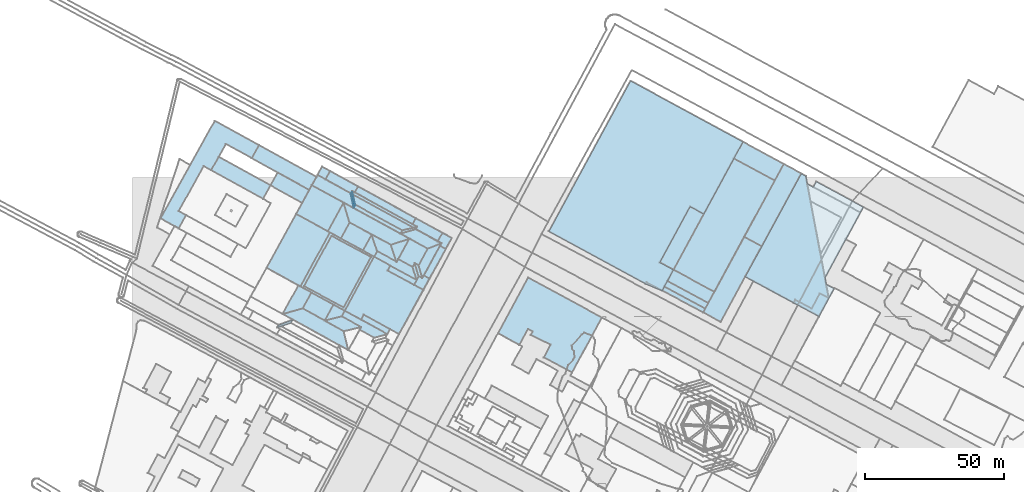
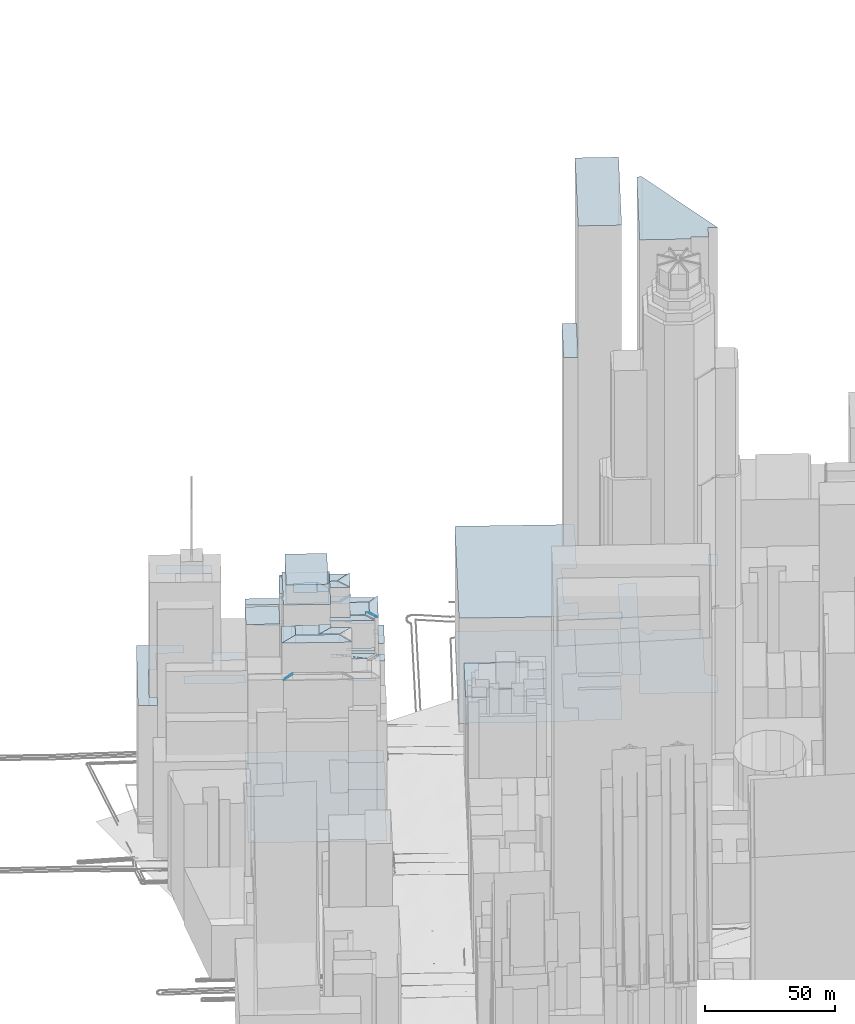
# Not in any storey, part 41 of 76: 55 roofs.
"""IFC2X3 model written with IfcOpenShell, lengths in metres."""

import ifcopenshell
import ifcopenshell.guid

model = None  # the IFC model being written
_history = None  # IfcOwnerHistory: only IFC2X3 demands one
_inside = {}  # id of a spatial element -> (the spatial element, [elements in it])
_under = {}  # id of a project, library or spatial element -> (it, [spatial elements below it])
_declared = {}  # id of a project -> (the project, [libraries it declares])
_typed = {}  # id of a type object -> (the type object, [elements of that type])
_made_of = {}  # id of a material, layer set ... -> (it, [elements and type objects made of it])


def new_model(schema):
    """Start an empty IFC model of exactly this schema.

    Asked for "IFC4X3", IfcOpenShell would pick the latest addendum, in which some entities
    have other attributes; the version numbers below select the first issue.
    IFC2X3 requires an IfcOwnerHistory on every rooted entity: one is made here for all.
    """
    global model, _history
    if schema == "IFC4X3":
        model = ifcopenshell.file(schema_version=(4, 3, 0, 0))
    else:
        model = ifcopenshell.file(schema=schema)
    _inside.clear()
    _under.clear()
    _declared.clear()
    _typed.clear()
    _made_of.clear()
    _history = None
    if model.schema == "IFC2X3":
        org = make("IfcOrganization", Name="unknown")
        user = make(
            "IfcPersonAndOrganization",
            ThePerson=make("IfcPerson", FamilyName="unknown"),
            TheOrganization=org,
        )
        app = make(
            "IfcApplication",
            ApplicationDeveloper=org,
            Version="unknown",
            ApplicationFullName="unknown",
            ApplicationIdentifier="unknown",
        )
        _history = make(
            "IfcOwnerHistory",
            OwningUser=user,
            OwningApplication=app,
            ChangeAction="ADDED",
            CreationDate=0,
        )
    return model


def make(cls, **values):
    """One entity of the class cls with the attributes given. An attribute that is None is left unset."""
    return model.create_entity(
        cls, **{name: value for name, value in values.items() if value is not None}
    )


def rooted(cls, **values):
    """An entity with a GlobalId (a new one), such as an element, a storey or a relation."""
    return make(cls, GlobalId=ifcopenshell.guid.new(), OwnerHistory=_history, **values)


def si_unit(unit_type, name, prefix=None):
    """IfcSIUnit, for example si_unit("LENGTHUNIT", "METRE", prefix="MILLI")."""
    return make("IfcSIUnit", UnitType=unit_type, Prefix=prefix, Name=name)


def assignment(units):
    """IfcUnitAssignment: the units of a project."""
    return None if units is None else make("IfcUnitAssignment", Units=units)


def point(xyz):
    """IfcCartesianPoint."""
    return None if xyz is None else make("IfcCartesianPoint", Coordinates=xyz)


def direction(xyz):
    """IfcDirection."""
    return None if xyz is None else make("IfcDirection", DirectionRatios=xyz)


def frame(location, z_axis=None, x_axis=None):
    """IfcAxis2Placement3D, a coordinate frame: its origin and axes. An axis left out is left unset."""
    return make(
        "IfcAxis2Placement3D",
        Location=point(location),
        Axis=direction(z_axis),
        RefDirection=direction(x_axis),
    )


def origin_with_axes():
    """The frame at (0, 0, 0) with the z axis (0, 0, 1) and the x axis (1, 0, 0) written out."""
    return frame((0.0, 0.0, 0.0), z_axis=(0.0, 0.0, 1.0), x_axis=(1.0, 0.0, 0.0))


def place(relative_to, where):
    """IfcLocalPlacement: puts the frame where relative to a parent placement (None: the world)."""
    return make(
        "IfcLocalPlacement", PlacementRelTo=relative_to, RelativePlacement=where
    )


def context(
    kind, dimensions, precision=None, world=None, true_north=None, identifier=None
):
    """IfcGeometricRepresentationContext, for example the 3D "Model" context."""
    return make(
        "IfcGeometricRepresentationContext",
        ContextIdentifier=identifier,
        ContextType=kind,
        CoordinateSpaceDimension=dimensions,
        Precision=precision,
        WorldCoordinateSystem=world,
        TrueNorth=true_north,
    )


def subcontext(parent, identifier, kind, view, scale=None):
    """IfcGeometricRepresentationSubContext, for example "Body" below "Model"."""
    return make(
        "IfcGeometricRepresentationSubContext",
        ContextIdentifier=identifier,
        ContextType=kind,
        ParentContext=parent,
        TargetScale=scale,
        TargetView=view,
    )


def project(units=None, contexts=None):
    """IfcProject with its units and contexts."""
    return rooted(
        "IfcProject",
        Name="project",
        RepresentationContexts=contexts,
        UnitsInContext=assignment(units),
    )


def faces_of(points, faces, orient=None, outer=None):
    """IfcFace entities. A face is a list of loops; a loop is a list of indices into points, from 0.

    orient and outer hold one flag for each loop. By default every Orientation is true, the
    first loop of a face is its IfcFaceOuterBound and the others are IfcFaceBound.
    """
    made = []
    for i, loops in enumerate(faces):
        bounds = []
        for j, loop in enumerate(loops):
            is_outer = j == 0 if outer is None else outer[i][j]
            bounds.append(
                make(
                    "IfcFaceOuterBound" if is_outer else "IfcFaceBound",
                    Bound=make("IfcPolyLoop", Polygon=[points[k] for k in loop]),
                    Orientation=True if orient is None else orient[i][j],
                )
            )
        made.append(make("IfcFace", Bounds=bounds))
    return made


def faceted_brep(points, faces, orient=None, outer=None, voids=None):
    """IfcFacetedBrep: a solid bounded by flat faces; with voids (closed shells), ...WithVoids."""
    shared = [point(p) for p in points]
    hull = make("IfcClosedShell", CfsFaces=faces_of(shared, faces, orient, outer))
    if voids is None:
        return make("IfcFacetedBrep", Outer=hull)
    return make(
        "IfcFacetedBrepWithVoids",
        Outer=hull,
        Voids=[
            make(cls, CfsFaces=faces_of(shared, fs, o, b)) for cls, fs, o, b in voids
        ],
    )


def shape(context_of_items, identifier, shape_type, items):
    """IfcShapeRepresentation: the items that make up one representation, for example the "Body"."""
    return make(
        "IfcShapeRepresentation",
        ContextOfItems=context_of_items,
        RepresentationIdentifier=identifier,
        RepresentationType=shape_type,
        Items=items,
    )


def made_of(thing, what):
    """Note that an element or type object is made of a material, layer set ...; save() writes the relation."""
    if what is not None:
        _made_of.setdefault(what.id(), (what, []))[1].append(thing)
    return thing


def element(
    cls,
    number,
    at=None,
    inside=None,
    cuts=None,
    type_object=None,
    material=None,
    context=None,
    identifier="Body",
    shape_type=None,
    held_by="IfcProductDefinitionShape",
    body=None,
    shapes=None,
    **own,
):
    """One element of the class cls, such as IfcWall. Its Tag is "e" and its number.

    at: its placement. inside: the storey or other place that contains it. cuts: it is an
    opening in that element (IfcRelVoidsElement). A single representation is given by context,
    identifier, shape_type and body (its items); several are given by shapes. held_by: the class
    of the entity that holds the representations. save() writes the other relations.
    """
    e = rooted(cls, Tag="e%d" % number, ObjectPlacement=at, **own)
    if body is not None:
        shapes = [shape(context, identifier, shape_type, body)]
    if shapes is not None:
        e.Representation = make(held_by, Representations=shapes)
    if inside is not None:
        _inside.setdefault(inside.id(), (inside, []))[1].append(e)
    if cuts is not None:
        rooted(
            "IfcRelVoidsElement", RelatingBuildingElement=cuts, RelatedOpeningElement=e
        )
    if type_object is not None:
        _typed.setdefault(type_object.id(), (type_object, []))[1].append(e)
    return made_of(e, material)


def aggregate(whole, parts):
    """IfcRelAggregates: a whole, such as a stair, and the parts it consists of."""
    return rooted("IfcRelAggregates", RelatingObject=whole, RelatedObjects=parts)


def save(model, path):
    """Write the relations noted so far, then the file.

    IfcRelAggregates (storeys below a building ...), IfcRelContainedInSpatialStructure (elements
    in a storey), IfcRelDefinesByType, IfcRelAssociatesMaterial and IfcRelDeclares: one each for
    every whole, place, type object, material and project.
    """
    for whole, parts in _under.values():
        aggregate(whole, parts)
    for where, things in _inside.values():
        rooted(
            "IfcRelContainedInSpatialStructure",
            RelatedElements=things,
            RelatingStructure=where,
        )
    for kind, things in _typed.values():
        rooted("IfcRelDefinesByType", RelatedObjects=things, RelatingType=kind)
    for what, things in _made_of.values():
        rooted("IfcRelAssociatesMaterial", RelatedObjects=things, RelatingMaterial=what)
    for by, libraries in _declared.values():
        rooted("IfcRelDeclares", RelatingContext=by, RelatedDefinitions=libraries)
    model.write(path)


model = new_model("IFC2X3")

# Units and contexts
model_context = context("Model", 3, precision=1e-05, world=origin_with_axes())
body_context = subcontext(model_context, "Body", "Model", "MODEL_VIEW")
ifc_project = project(units=[si_unit("AREAUNIT", "SQUARE_METRE"), si_unit("LENGTHUNIT", "METRE")], contexts=[model_context])

# Roofs
roof_1_placement = place(None, frame((75.1201709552, 329.5761447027, 23.8507407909), z_axis=(0.0, 0.0, 1.0), x_axis=(1.0, 0.0, 0.0)))
element("IfcRoof", 1, at=roof_1_placement, Name="Toiture 0", ShapeType="NOTDEFINED", context=body_context, shape_type="Brep", body=[
    faceted_brep([(1.0997322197, 1.9778684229, 80.0), (0.0, 0.0, 80.0), (7.0088017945, -3.8488115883, 80.0), (6.4714030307, -4.8209481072, 80.0), (11.6537066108, -7.6695578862, 80.0), (16.4083748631, -6.4041945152, 80.0)], [[[0, 1, 2]], [[2, 3, 4]], [[4, 5, 0]], [[0, 2, 4]]]),
])
roof_2_placement = place(None, frame((53.8808145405, 330.3842681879, 23.5017044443), z_axis=(0.0, 0.0, 1.0), x_axis=(1.0, 0.0, 0.0)))
element("IfcRoof", 2, at=roof_2_placement, Name="Toiture 0", ShapeType="NOTDEFINED", context=body_context, shape_type="Brep", body=[
    faceted_brep([(7.2275813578, 2.0268001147, 94.0), (0.0, 0.0, 94.0), (20.3973031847, -11.1652006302, 94.0), (23.6510455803, -12.9481890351, 94.0), (21.976830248, -6.1619484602, 94.0)], [[[0, 1, 2]], [[2, 3, 4]], [[4, 0, 2]]]),
])
roof_3_placement = place(None, frame((219.6501998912, 358.1121317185, 21.8344391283), z_axis=(0.0, 0.0, 1.0), x_axis=(1.0, 0.0, 0.0)))
element("IfcRoof", 3, at=roof_3_placement, Name="Toiture 0", ShapeType="NOTDEFINED", context=body_context, shape_type="Brep", body=[
    faceted_brep([(14.1893424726, 26.1665450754, 27.7000007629), (0.0, 0.0, 27.7000007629), (6.2692645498, -3.4020859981, 27.7000007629), (20.4756016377, 22.7535668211, 27.7000007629)], [[[0, 1, 2]], [[2, 3, 0]]]),
])
roof_4_placement = place(None, frame((237.4075822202, 334.4377302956, 21.8574343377), z_axis=(0.0, 0.0, 1.0), x_axis=(1.0, 0.0, 0.0)))
element("IfcRoof", 4, at=roof_4_placement, Name="Toiture 0", ShapeType="NOTDEFINED", context=body_context, shape_type="Brep", body=[
    faceted_brep([(0.6119191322, 1.095140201, 65.0), (0.0, 0.0, 65.0), (9.0722546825, -4.8904699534, 65.0), (12.6339095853, 1.6902007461, 65.0), (9.4062271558, 3.4068039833, 65.0), (6.507259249, -2.0892360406, 65.0)], [[[0, 1, 2]], [[2, 3, 4]], [[5, 0, 2]], [[2, 4, 5]]]),
])
roof_5_placement = place(None, frame((220.0023122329, 343.8054149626, 21.493715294), z_axis=(0.0, 0.0, 1.0), x_axis=(1.0, 0.0, 0.0)))
element("IfcRoof", 5, at=roof_5_placement, Name="Toiture 0", ShapeType="NOTDEFINED", context=body_context, shape_type="Brep", body=[
    faceted_brep([(20.1234892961, 37.0602835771, 6.0), (0.0, 0.0, 6.0), (26.4775246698, -14.2581546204, 6.0), (31.9063663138, -4.1918534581, 6.0), (29.1545647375, -2.74727068, 6.0), (28.6785615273, -0.2881071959, 6.0), (42.4133124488, 25.0405352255, 6.0), (25.5002002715, 34.1918411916, 6.0), (22.3276907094, 33.344465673, 6.0), (21.8057455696, 36.1250606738, 6.0), (24.4257112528, 32.2253420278, 6.0)], [[[0, 1, 2]], [[2, 3, 4]], [[5, 6, 7]], [[8, 9, 0]], [[0, 2, 4]], [[5, 7, 10]], [[0, 4, 5]], [[5, 10, 8]], [[8, 0, 5]]]),
])
roof_6_placement = place(None, frame((220.0023122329, 343.8054149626, 21.8574343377), z_axis=(0.0, 0.0, 1.0), x_axis=(1.0, 0.0, 0.0)))
element("IfcRoof", 6, at=roof_6_placement, Name="Toiture 0", ShapeType="NOTDEFINED", context=body_context, shape_type="Brep", body=[
    faceted_brep([(20.1234892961, 37.0602835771, 218.0), (0.0, 0.0, 218.0), (17.4052699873, -9.367684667, 218.0), (18.0171891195, -8.272544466, 218.0), (23.9125292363, -11.4569207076, 218.0), (26.8114971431, -5.9608806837, 218.0), (30.0391795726, -7.6774839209, 218.0), (21.8057455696, 36.1250606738, 218.0)], [[[0, 1, 2]], [[3, 4, 5]], [[5, 6, 7]], [[7, 0, 2]], [[3, 5, 7]], [[7, 2, 3]]]),
])
roof_7_placement = place(None, frame((194.2357723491, 346.2924328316, 22.8993147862), z_axis=(0.0, 0.0, 1.0), x_axis=(1.0, 0.0, 0.0)))
element("IfcRoof", 7, at=roof_7_placement, Name="Toiture 0", ShapeType="NOTDEFINED", context=body_context, shape_type="Brep", body=[
    faceted_brep([(21.7021083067, 39.9651582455, 231.0), (0.0, 0.0, 231.0), (14.695507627, -7.911555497, 231.0), (36.3976918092, 32.0425454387, 231.0)], [[[0, 1, 2]], [[2, 3, 0]]]),
])
roof_8_placement = place(None, frame((189.3088417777, 348.9551990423, 22.410062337), z_axis=(0.0, 0.0, 1.0), x_axis=(1.0, 0.0, 0.0)))
element("IfcRoof", 8, at=roof_8_placement, Name="Toiture 0", ShapeType="NOTDEFINED", context=body_context, shape_type="Brep", body=[
    faceted_brep([(10.8841438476, 20.0440098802, 6.0), (0.0, 0.0, 6.0), (4.9269305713, -2.6627662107, 6.0), (0.8608347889, -10.1485570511, 6.0), (15.5890804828, -17.9709220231, 6.0), (44.530700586, 35.3234777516, 6.0), (29.8769383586, 43.2798772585, 6.0), (15.8109363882, 17.3923517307, 6.0)], [[[0, 1, 2]], [[2, 3, 4]], [[4, 5, 6]], [[7, 0, 2]], [[2, 4, 6]], [[6, 7, 2]]]),
])
roof_9_placement = place(None, frame((189.3088417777, 348.9551990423, 22.410062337), z_axis=(0.0, 0.0, 1.0), x_axis=(1.0, 0.0, 0.0)))
element("IfcRoof", 9, at=roof_9_placement, Name="Toiture 0", ShapeType="NOTDEFINED", context=body_context, shape_type="Brep", body=[
    faceted_brep([(10.8841438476, 20.0440098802, 170.0), (0.0, 0.0, 170.0), (4.9269305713, -2.6627662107, 170.0), (15.8109363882, 17.3923517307, 170.0)], [[[0, 1, 2]], [[2, 3, 0]]]),
])
roof_10_placement = place(None, frame((192.0622109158, 342.2925513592, 22.833956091), z_axis=(0.0, 0.0, 1.0), x_axis=(1.0, 0.0, 0.0)))
element("IfcRoof", 10, at=roof_10_placement, Name="Toiture 0", ShapeType="NOTDEFINED", context=body_context, shape_type="Brep", body=[
    faceted_brep([(2.1735614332, 3.9998814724, 50.0), (0.0, 0.0, 50.0), (14.6956420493, -7.9226606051, 50.0), (16.8690690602, -3.9116740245, 50.0)], [[[0, 1, 2]], [[2, 3, 0]]]),
])
roof_11_placement = place(None, frame((190.971338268, 340.2814610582, 22.7953305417), z_axis=(0.0, 0.0, 1.0), x_axis=(1.0, 0.0, 0.0)))
element("IfcRoof", 11, at=roof_11_placement, Name="Toiture 0", ShapeType="NOTDEFINED", context=body_context, shape_type="Brep", body=[
    faceted_brep([(1.0908726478, 2.011090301, 25.0), (0.0, 0.0, 25.0), (14.6956447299, -7.9226627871, 25.0), (15.7865146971, -5.9115703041, 25.0)], [[[0, 1, 2]], [[2, 3, 0]]]),
])
roof_12_placement = place(None, frame((190.1696765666, 338.8066419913, 22.7695470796), z_axis=(0.0, 0.0, 1.0), x_axis=(1.0, 0.0, 0.0)))
element("IfcRoof", 12, at=roof_12_placement, Name="Toiture 0", ShapeType="NOTDEFINED", context=body_context, shape_type="Brep", body=[
    faceted_brep([(0.8016617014, 1.4748190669, 20.0), (0.0, 0.0, 20.0), (14.728245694, -7.822364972, 20.0), (15.4973064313, -6.4478437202, 20.0)], [[[0, 1, 2]], [[2, 3, 0]]]),
])
roof_13_placement = place(None, frame((204.8979222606, 330.9842770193, 21.8344391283), z_axis=(0.0, 0.0, 1.0), x_axis=(1.0, 0.0, 0.0)))
element("IfcRoof", 13, at=roof_13_placement, Name="Toiture 0", ShapeType="NOTDEFINED", context=body_context, shape_type="Brep", body=[
    faceted_brep([(14.7522776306, 27.1278546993, 27.7000007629), (0.0, 0.0, 27.7000007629), (6.2862894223, -3.4130030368, 27.7000007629), (21.0215421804, 23.7257687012, 27.7000007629)], [[[0, 1, 2]], [[2, 3, 0]]]),
])
roof_14_placement = place(None, frame((131.2414210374, 323.4889407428, 19.5874307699), z_axis=(0.0, 0.0, 1.0), x_axis=(1.0, 0.0, 0.0)))
element("IfcRoof", 14, at=roof_14_placement, Name="Toiture 0", ShapeType="NOTDEFINED", context=body_context, shape_type="Brep", body=[
    faceted_brep([(10.8174622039, 19.9876323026, 49.7000007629), (0.0, 0.0, 49.7000007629), (7.6623465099, -4.1520283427, 49.7000007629), (12.4605179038, 0.6332892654, 49.7000007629), (11.7910505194, -0.5957385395, 49.7000007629), (18.9140593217, -4.0989897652, 49.7000007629), (16.4763130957, -8.6126311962, 49.7000007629), (26.6105246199, -14.0903890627, 49.7000007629), (37.2957336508, 5.6514960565, 49.7000007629), (10.7530705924, 1.557139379, 49.7000007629)], [[[0, 1, 2]], [[3, 4, 5]], [[5, 6, 7]], [[7, 8, 0]], [[0, 2, 9]], [[5, 7, 0]], [[0, 9, 3]], [[3, 5, 0]]]),
])
roof_15_placement = place(None, frame((149.4964624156, 360.1164702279, 22.410062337), z_axis=(0.0, 0.0, 1.0), x_axis=(1.0, 0.0, 0.0)))
element("IfcRoof", 15, at=roof_15_placement, Name="Toiture 0", ShapeType="NOTDEFINED", context=body_context, shape_type="Brep", body=[
    faceted_brep([(29.3384984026, 54.0315411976, 6.0), (0.0, 0.0, 6.0), (34.744220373, -18.8585502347, 6.0), (40.6732141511, -21.3098282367, 6.0), (44.7393099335, -13.8240373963, 6.0), (50.6965232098, 8.8827386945, 6.0), (55.6233157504, 6.2310805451, 6.0), (69.6893177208, 32.1186060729, 6.0), (39.8123793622, -11.1612711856, 6.0)], [[[0, 1, 2]], [[2, 3, 4]], [[5, 6, 7]], [[2, 4, 8]], [[5, 7, 0]], [[0, 2, 8]], [[8, 5, 0]]]),
])
roof_16_placement = place(None, frame((149.4964624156, 360.1164702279, 22.410062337), z_axis=(0.0, 0.0, 1.0), x_axis=(1.0, 0.0, 0.0)))
element("IfcRoof", 16, at=roof_16_placement, Name="Toiture 0", ShapeType="NOTDEFINED", context=body_context, shape_type="Brep", body=[
    faceted_brep([(29.3384984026, 54.0315411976, 55.2000007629), (0.0, 0.0, 55.2000007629), (34.744220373, -18.8585502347, 55.2000007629), (35.0417433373, -18.3110805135, 55.2000007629), (40.6732141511, -21.3098282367, 55.2000007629), (44.7393099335, -13.8240373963, 55.2000007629), (50.6965232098, 8.8827386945, 55.2000007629), (55.6233157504, 6.2310805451, 55.2000007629), (69.6893177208, 32.1186060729, 55.2000007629), (39.8123793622, -11.1612711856, 55.2000007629)], [[[0, 1, 2]], [[3, 4, 5]], [[6, 7, 8]], [[0, 2, 3]], [[3, 5, 9]], [[6, 8, 0]], [[0, 3, 9]], [[9, 6, 0]]]),
])
roof_17_placement = place(None, frame((96.2081885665, 359.2420118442, 24.1378546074), z_axis=(0.0, 0.0, 1.0), x_axis=(1.0, 0.0, 0.0)))
element("IfcRoof", 17, at=roof_17_placement, Name="Toiture 0", ShapeType="NOTDEFINED", context=body_context, shape_type="Brep", body=[
    faceted_brep([(0.6444088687, 1.2065279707, 80.0), (0.0, 0.0, 80.0), (5.476758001, 1.5957227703, 80.0), (5.9728530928, 2.4896654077, 80.0)], [[[0, 1, 2]], [[2, 3, 0]]]),
])
roof_18_placement = place(None, frame((100.5582678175, 362.6343155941, 24.249661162), z_axis=(0.0, 0.0, 1.0), x_axis=(1.0, 0.0, 0.0)))
element("IfcRoof", 18, at=roof_18_placement, Name="Toiture 0", ShapeType="NOTDEFINED", context=body_context, shape_type="Brep", body=[
    faceted_brep([(1.1989392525, 2.1566610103, 67.0), (0.0, 0.0, 67.0), (1.6227738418, -0.9026383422, 67.0), (1.12667875, -1.7965809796, 67.0), (9.0533233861, -6.1787158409, 67.0), (10.7731599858, -3.0834129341, 67.0)], [[[0, 1, 2]], [[2, 3, 4]], [[4, 5, 0]], [[0, 2, 4]]]),
])
roof_19_placement = place(None, frame((95.4278204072, 350.1179975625, 24.1757851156), z_axis=(0.0, 0.0, 1.0), x_axis=(1.0, 0.0, 0.0)))
element("IfcRoof", 19, at=roof_19_placement, Name="Toiture 0", ShapeType="NOTDEFINED", context=body_context, shape_type="Brep", body=[
    faceted_brep([(4.0340988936, 7.3410355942, 80.0), (0.0, 0.0, 80.0), (5.1904741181, -2.8263004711, 80.0), (5.942800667, -1.4630871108, 80.0), (7.3274473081, -2.2130597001, 80.0), (10.6093444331, 3.7536652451, 80.0)], [[[0, 1, 2]], [[3, 4, 5]], [[0, 2, 3]], [[3, 5, 0]]]),
])
roof_20_placement = place(None, frame((100.6182945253, 347.2916970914, 24.2468793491), z_axis=(0.0, 0.0, 1.0), x_axis=(1.0, 0.0, 0.0)))
element("IfcRoof", 20, at=roof_20_placement, Name="Toiture 0", ShapeType="NOTDEFINED", context=body_context, shape_type="Brep", body=[
    faceted_brep([(0.7523265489, 1.3632133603, 80.0), (0.0, 0.0, 80.0), (1.4724916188, -4.6791504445, 80.0), (2.1913155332, -3.3385306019, 80.0)], [[[0, 1, 2]], [[2, 3, 0]]]),
])
roof_21_placement = place(None, frame((101.3706210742, 348.6549104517, 24.232721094), z_axis=(0.0, 0.0, 1.0), x_axis=(1.0, 0.0, 0.0)))
element("IfcRoof", 21, at=roof_21_placement, Name="Toiture 0", ShapeType="NOTDEFINED", context=body_context, shape_type="Brep", body=[
    faceted_brep([(1.3846466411, -0.7499725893, 80.0), (0.0, 0.0, 80.0), (1.4389889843, -4.7017439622, 80.0), (2.7214517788, -5.3751874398, 80.0)], [[[0, 1, 2]], [[2, 3, 0]]]),
])
roof_22_placement = place(None, frame((104.621027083, 344.2517632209, 24.2058781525), z_axis=(0.0, 0.0, 1.0), x_axis=(1.0, 0.0, 0.0)))
element("IfcRoof", 22, at=roof_22_placement, Name="Toiture 0", ShapeType="NOTDEFINED", context=body_context, shape_type="Brep", body=[
    faceted_brep([(5.7938113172, 10.6366471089, 67.0), (0.0, 0.0, 67.0), (2.0982656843, -1.14136393, 67.0), (7.8835058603, 9.5062875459, 67.0)], [[[0, 1, 2]], [[2, 3, 0]]]),
])
roof_23_placement = place(None, frame((102.7552677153, 347.9049378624, 24.232721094), z_axis=(0.0, 0.0, 1.0), x_axis=(1.0, 0.0, 0.0)))
element("IfcRoof", 23, at=roof_23_placement, Name="Toiture 0", ShapeType="NOTDEFINED", context=body_context, shape_type="Brep", body=[
    faceted_brep([(3.281897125, 5.9667249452, 80.0), (0.0, 0.0, 80.0), (1.3368051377, -4.6252148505, 80.0), (8.1803409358, 7.9332136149, 80.0)], [[[0, 1, 2]], [[2, 3, 0]]]),
])
roof_24_placement = place(None, frame((109.6115912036, 356.4555997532, 24.2810848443), z_axis=(0.0, 0.0, 1.0), x_axis=(1.0, 0.0, 0.0)))
element("IfcRoof", 24, at=roof_24_placement, Name="Toiture 0", ShapeType="NOTDEFINED", context=body_context, shape_type="Brep", body=[
    faceted_brep([(1.7198365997, 3.0953029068, 62.0), (0.0, 0.0, 62.0), (1.3240174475, -0.6174482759, 62.0), (0.8032471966, -1.5671894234, 62.0), (2.8929417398, -2.6975489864, 62.0), (5.0500484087, 1.268810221, 62.0)], [[[0, 1, 2]], [[2, 3, 4]], [[4, 5, 0]], [[0, 2, 4]]]),
])
roof_25_placement = place(None, frame((101.1237847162, 340.8360563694, 24.2058781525), z_axis=(0.0, 0.0, 1.0), x_axis=(1.0, 0.0, 0.0)))
element("IfcRoof", 25, at=roof_25_placement, Name="Toiture 0", ShapeType="NOTDEFINED", context=body_context, shape_type="Brep", body=[
    faceted_brep([(1.6858253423, 3.1171101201, 62.0), (0.0, 0.0, 62.0), (3.3638492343, -1.8150044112, 62.0), (5.5955080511, 2.2743429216, 62.0), (3.4972423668, 3.4157068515, 62.0), (2.9682881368, 2.4436666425, 62.0)], [[[0, 1, 2]], [[2, 3, 4]], [[5, 0, 2]], [[2, 4, 5]]]),
])
roof_26_placement = place(None, frame((76.2199031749, 331.5540131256, 23.8161532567), z_axis=(0.0, 0.0, 1.0), x_axis=(1.0, 0.0, 0.0)))
element("IfcRoof", 26, at=roof_26_placement, Name="Toiture 0", ShapeType="NOTDEFINED", context=body_context, shape_type="Brep", body=[
    faceted_brep([(10.5539558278, 19.4293756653, 15.0), (0.0, 0.0, 15.0), (5.886443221, -3.1512997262, 15.0), (6.870460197, -1.3857167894, 15.0), (19.4873212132, -8.4001453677, 15.0), (28.2677307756, 7.4670388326, 15.0), (15.4237759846, 14.4122011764, 15.0), (16.3907789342, 16.1886902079, 15.0)], [[[0, 1, 2]], [[3, 4, 5]], [[6, 7, 0]], [[0, 2, 3]], [[3, 5, 6]], [[6, 0, 3]]]),
])
roof_27_placement = place(None, frame((91.6436791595, 345.966214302, 24.0394007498), z_axis=(0.0, 0.0, 1.0), x_axis=(1.0, 0.0, 0.0)))
element("IfcRoof", 27, at=roof_27_placement, Name="Toiture 0", ShapeType="NOTDEFINED", context=body_context, shape_type="Brep", body=[
    faceted_brep([(0.9670029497, 1.7764890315, 67.0), (0.0, 0.0, 67.0), (9.4801055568, -5.1301579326, 67.0), (10.4471069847, -3.353667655, 67.0)], [[[0, 1, 2]], [[2, 3, 0]]]),
])
roof_28_placement = place(None, frame((86.7738590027, 350.9833887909, 23.8161532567), z_axis=(0.0, 0.0, 1.0), x_axis=(1.0, 0.0, 0.0)))
element("IfcRoof", 28, at=roof_28_placement, Name="Toiture 0", ShapeType="NOTDEFINED", context=body_context, shape_type="Brep", body=[
    faceted_brep([(1.1079080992, 2.0001698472, 80.0), (0.0, 0.0, 80.0), (5.8368231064, -3.2406854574, 80.0), (15.3169271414, -8.3708421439, 80.0), (13.8444355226, -3.6916916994, 80.0), (8.6539614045, -0.8653912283, 80.0), (8.1165662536, -1.8375288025, 80.0)], [[[0, 1, 2]], [[2, 3, 4]], [[4, 5, 6]], [[6, 0, 2]], [[2, 4, 6]]]),
])
roof_29_placement = place(None, frame((92.8106246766, 355.2390469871, 24.0480155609), z_axis=(0.0, 0.0, 1.0), x_axis=(1.0, 0.0, 0.0)))
element("IfcRoof", 29, at=roof_29_placement, Name="Toiture 0", ShapeType="NOTDEFINED", context=body_context, shape_type="Brep", body=[
    faceted_brep([(6.6512946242, 2.2199861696, 94.0), (0.0, 0.0, 94.0), (2.0798005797, -6.0931869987, 94.0)], [[[0, 1, 2]]]),
])
roof_30_placement = place(None, frame((79.4722561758, 368.4179540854, 23.5718630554), z_axis=(0.0, 0.0, 1.0), x_axis=(1.0, 0.0, 0.0)))
element("IfcRoof", 30, at=roof_30_placement, Name="Toiture 0", ShapeType="NOTDEFINED", context=body_context, shape_type="Brep", body=[
    faceted_brep([(0.6023388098, 1.1949356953, 80.0), (0.0, 0.0, 80.0), (16.7359323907, -9.1759422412, 80.0), (17.3803412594, -7.9694142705, 80.0)], [[[0, 1, 2]], [[2, 3, 0]]]),
])
roof_31_placement = place(None, frame((75.8192697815, 370.4183503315, 23.455162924), z_axis=(0.0, 0.0, 1.0), x_axis=(1.0, 0.0, 0.0)))
element("IfcRoof", 31, at=roof_31_placement, Name="Toiture 0", ShapeType="NOTDEFINED", context=body_context, shape_type="Brep", body=[
    faceted_brep([(23.6426495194, -12.9593171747, 94.0), (0.0, 0.0, 94.0), (2.1596786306, -7.1580802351, 94.0), (16.9913548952, -15.1793033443, 94.0)], [[[0, 1, 2]], [[2, 3, 0]]]),
])
roof_32_placement = place(None, frame((85.9220693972, 358.9116084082, 23.7825598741), z_axis=(0.0, 0.0, 1.0), x_axis=(1.0, 0.0, 0.0)))
element("IfcRoof", 32, at=roof_32_placement, Name="Toiture 0", ShapeType="NOTDEFINED", context=body_context, shape_type="Brep", body=[
    faceted_brep([(6.8885552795, -3.6725614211, 94.0), (0.0, 0.0, 94.0), (1.9596977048, -5.9280497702, 94.0), (8.9683558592, -9.7657484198, 94.0)], [[[0, 1, 2]], [[2, 3, 0]]]),
])
roof_33_placement = place(None, frame((82.7722366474, 353.201778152, 23.6513045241), z_axis=(0.0, 0.0, 1.0), x_axis=(1.0, 0.0, 0.0)))
element("IfcRoof", 33, at=roof_33_placement, Name="Toiture 0", ShapeType="NOTDEFINED", context=body_context, shape_type="Brep", body=[
    faceted_brep([(3.1498327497, 5.7098302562, 94.0), (0.0, 0.0, 94.0), (4.0016223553, -2.2183893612, 94.0), (5.1095304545, -0.218219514, 94.0)], [[[0, 1, 2]], [[2, 3, 0]]]),
])
roof_34_placement = place(None, frame((74.8292405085, 357.53934249, 23.2877785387), z_axis=(0.0, 0.0, 1.0), x_axis=(1.0, 0.0, 0.0)))
element("IfcRoof", 34, at=roof_34_placement, Name="Toiture 0", ShapeType="NOTDEFINED", context=body_context, shape_type="Brep", body=[
    faceted_brep([(3.1497079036, 5.7209276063, 94.0), (0.0, 0.0, 94.0), (7.9429961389, -4.337564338, 94.0), (11.0928288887, 1.3722659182, 94.0)], [[[0, 1, 2]], [[2, 3, 0]]]),
])
roof_35_placement = place(None, frame((38.8830888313, 330.1657711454, 23.4054188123), z_axis=(0.0, 0.0, 1.0), x_axis=(1.0, 0.0, 0.0)))
element("IfcRoof", 35, at=roof_35_placement, Name="Toiture 0", ShapeType="NOTDEFINED", context=body_context, shape_type="Brep", body=[
    faceted_brep([(29.2065067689, 53.1191580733, 6.0), (0.0, 0.0, 6.0), (46.6647208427, -25.5263239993, 6.0), (75.778550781, 27.5586388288, 6.0)], [[[0, 1, 2]], [[2, 3, 0]]]),
])
roof_36_placement = place(None, frame((61.6318682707, 340.3996652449, 127.1275293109), z_axis=(0.0, 0.0, 1.0), x_axis=(1.0, 0.0, 0.0)))
element("IfcRoof", 36, at=roof_36_placement, Name="Toiture 0", ShapeType="NOTDEFINED", context=body_context, shape_type="Brep", body=[
    faceted_brep([(9.81827195, 18.0885419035, 8.8000030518), (0.0, 0.0, 8.8000030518), (14.1943048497, -7.651180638, 8.8000030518), (24.0125535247, 10.4373802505, 8.8000030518)], [[[0, 1, 2]], [[2, 3, 0]]]),
])
roof_37_placement = place(None, frame((60.3249272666, 340.2734696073, 23.0925662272), z_axis=(0.0, 0.0, 1.0), x_axis=(1.0, 0.0, 0.0)))
element("IfcRoof", 37, at=roof_37_placement, Name="Toiture 0", ShapeType="NOTDEFINED", context=body_context, shape_type="Brep", body=[
    faceted_brep([(10.5539835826, 19.4293528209, 104.0), (0.0, 0.0, 104.0), (15.8949759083, -8.7194564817, 104.0), (26.4489317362, 10.7099191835, 104.0)], [[[0, 1, 2]], [[2, 3, 0]]]),
])
roof_38_placement = place(None, frame((70.1312780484, 360.1160272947, 23.0634036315), z_axis=(0.0, 0.0, 1.0), x_axis=(1.0, 0.0, 0.0)))
element("IfcRoof", 38, at=roof_38_placement, Name="Toiture 0", ShapeType="NOTDEFINED", context=body_context, shape_type="Brep", body=[
    faceted_brep([(5.6879917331, 10.3023230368, 94.0), (0.0, 0.0, 94.0), (4.6979624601, -2.5766848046, 94.0), (7.8476703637, 3.1442428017, 94.0)], [[[0, 1, 2]], [[2, 3, 0]]]),
])
roof_39_placement = place(None, frame((48.1254357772, 346.9708364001, 22.6869888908), z_axis=(0.0, 0.0, 1.0), x_axis=(1.0, 0.0, 0.0)))
element("IfcRoof", 39, at=roof_39_placement, Name="Toiture 0", ShapeType="NOTDEFINED", context=body_context, shape_type="Brep", body=[
    faceted_brep([(10.6309973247, 19.3414111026, 15.0), (0.0, 0.0, 15.0), (12.1994914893, -6.6973667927, 15.0), (22.753475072, 12.7319860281, 15.0)], [[[0, 1, 2]], [[2, 3, 0]]]),
])
roof_40_placement = place(None, frame((53.8808145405, 330.3842681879, 23.2090927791), z_axis=(0.0, 0.0, 1.0), x_axis=(1.0, 0.0, 0.0)))
element("IfcRoof", 40, at=roof_40_placement, Name="Toiture 0", ShapeType="NOTDEFINED", context=body_context, shape_type="Brep", body=[
    faceted_brep([(5.6964786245, 10.3024073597, 94.0), (0.0, 0.0, 94.0), (7.2275813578, 2.0268001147, 94.0), (10.3860090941, 7.7256178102, 94.0)], [[[0, 1, 2]], [[2, 3, 0]]]),
])
roof_41_placement = place(None, frame((69.0516677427, 328.0512876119, 23.6953649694), z_axis=(0.0, 0.0, 1.0), x_axis=(1.0, 0.0, 0.0)))
element("IfcRoof", 41, at=roof_41_placement, Name="Toiture 0", ShapeType="NOTDEFINED", context=body_context, shape_type="Brep", body=[
    faceted_brep([(3.1498546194, 5.7098238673, 94.0), (0.0, 0.0, 94.0), (6.0685032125, 1.5248570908, 94.0), (7.1682354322, 3.5027255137, 94.0)], [[[0, 1, 2]], [[2, 3, 0]]]),
])
roof_42_placement = place(None, frame((61.1083958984, 332.4110683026, 23.390927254), z_axis=(0.0, 0.0, 1.0), x_axis=(1.0, 0.0, 0.0)))
element("IfcRoof", 42, at=roof_42_placement, Name="Toiture 0", ShapeType="NOTDEFINED", context=body_context, shape_type="Brep", body=[
    faceted_brep([(3.1584277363, 5.6988176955, 94.0), (0.0, 0.0, 94.0), (7.9432718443, -4.3597806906, 94.0), (11.0931264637, 1.3500431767, 94.0)], [[[0, 1, 2]], [[2, 3, 0]]]),
])
roof_43_placement = place(None, frame((28.2698359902, 382.0233366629, 22.5121474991), z_axis=(0.0, 0.0, 1.0), x_axis=(1.0, 0.0, 0.0)))
element("IfcRoof", 43, at=roof_43_placement, Name="Toiture 0", ShapeType="NOTDEFINED", context=body_context, shape_type="Brep", body=[
    faceted_brep([(2.6958312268, 4.8274595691, 105.0), (0.0, 0.0, 105.0), (18.5803637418, -10.275973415, 105.0), (21.2760581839, -5.4374062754, 105.0)], [[[0, 1, 2]], [[2, 3, 0]]]),
])
roof_44_placement = place(None, frame((10.068288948, 364.747963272, 22.7304030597), z_axis=(0.0, 0.0, 1.0), x_axis=(1.0, 0.0, 0.0)))
element("IfcRoof", 44, at=roof_44_placement, Name="Toiture 0", ShapeType="NOTDEFINED", context=body_context, shape_type="Brep", body=[
    faceted_brep([(0.0, 0.0, 60.0), (6.5418195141, -3.6211429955, 60.0), (9.196238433, 1.1392176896, 60.0), (15.5253815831, 18.7542222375, 60.0), (18.2015470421, 17.2753733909, 60.0), (23.4855455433, 26.7514080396, 60.0), (32.8138870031, 21.5972119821, 60.0), (35.4104872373, 26.245889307, 60.0), (6.5370782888, 2.6071649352, 60.0), (19.514901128, 35.0320145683, 60.0)], [[[0, 1, 2]], [[3, 4, 5]], [[5, 6, 7]], [[0, 2, 8]], [[5, 7, 9]], [[9, 0, 8]], [[3, 5, 9]], [[9, 8, 3]]]),
])
roof_45_placement = place(None, frame((42.8821759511, 386.3451752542, 23.3606694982), z_axis=(0.0, 0.0, 1.0), x_axis=(1.0, 0.0, 0.0)))
element("IfcRoof", 45, at=roof_45_placement, Name="Toiture 0", ShapeType="NOTDEFINED", context=body_context, shape_type="Brep", body=[
    faceted_brep([(2.5966002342, 4.6486773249, 45.0), (0.0, 0.0, 45.0), (20.6194143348, -11.4068981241, 45.0), (23.1902990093, -6.725205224, 45.0)], [[[0, 1, 2]], [[2, 3, 0]]]),
])
roof_46_placement = place(None, frame((49.545894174, 376.5859303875, 22.872031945), z_axis=(0.0, 0.0, 1.0), x_axis=(1.0, 0.0, 0.0)))
element("IfcRoof", 46, at=roof_46_placement, Name="Toiture 0", ShapeType="NOTDEFINED", context=body_context, shape_type="Brep", body=[
    faceted_brep([(2.5882884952, 4.637480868, 60.0), (0.0, 0.0, 60.0), (11.3929905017, -6.3070456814, 60.0), (13.9556961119, -1.6476532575, 60.0)], [[[0, 1, 2]], [[2, 3, 0]]]),
])
roof_47_placement = place(None, frame((58.756433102, 366.3122475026, 22.6869888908), z_axis=(0.0, 0.0, 1.0), x_axis=(1.0, 0.0, 0.0)))
element("IfcRoof", 47, at=roof_47_placement, Name="Toiture 0", ShapeType="NOTDEFINED", context=body_context, shape_type="Brep", body=[
    faceted_brep([(5.6791754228, 10.3355185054, 80.0), (0.0, 0.0, 80.0), (11.3748449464, -6.196220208, 80.0), (17.0628366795, 4.1061028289, 80.0)], [[[0, 1, 2]], [[2, 3, 0]]]),
])
roof_48_placement = place(None, frame((69.2904287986, 378.7358456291, 23.7854365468), z_axis=(0.0, 0.0, 1.0), x_axis=(1.0, 0.0, 0.0)))
element("IfcRoof", 48, at=roof_48_placement, Name="Toiture 0", ShapeType="NOTDEFINED", context=body_context, shape_type="Brep", body=[
    faceted_brep([(1.653744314, 2.9724011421, 67.0), (0.0, 0.0, 67.0), (9.0394844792, -4.9909724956, 67.0), (9.5440215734, -4.0969334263, 67.0), (10.5380936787, -4.6516049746, 67.0), (11.6874272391, -2.5843414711, 67.0)], [[[0, 1, 2]], [[3, 4, 5]], [[0, 2, 3]], [[3, 5, 0]]]),
])
roof_49_placement = place(None, frame((78.3299132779, 373.7448731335, 23.5718630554), z_axis=(0.0, 0.0, 1.0), x_axis=(1.0, 0.0, 0.0)))
element("IfcRoof", 49, at=roof_49_placement, Name="Toiture 0", ShapeType="NOTDEFINED", context=body_context, shape_type="Brep", body=[
    faceted_brep([(0.5045370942, 0.8940390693, 80.0), (0.0, 0.0, 80.0), (1.1423428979, -5.3269190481, 80.0), (1.7446817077, -4.1319833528, 80.0)], [[[0, 1, 2]], [[2, 3, 0]]]),
])
roof_50_placement = place(None, frame((64.4356085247, 376.647766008, 23.5361312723), z_axis=(0.0, 0.0, 1.0), x_axis=(1.0, 0.0, 0.0)))
element("IfcRoof", 50, at=roof_50_placement, Name="Toiture 0", ShapeType="NOTDEFINED", context=body_context, shape_type="Brep", body=[
    faceted_brep([(2.0171223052, 3.6649587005, 80.0), (0.0, 0.0, 80.0), (41.6015563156, -22.7761032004, 80.0), (46.5000001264, -20.8096145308, 80.0)], [[[0, 1, 2]], [[2, 3, 0]]]),
])
roof_51_placement = place(None, frame((78.834450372, 374.6389122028, 23.6117030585), z_axis=(0.0, 0.0, 1.0), x_axis=(1.0, 0.0, 0.0)))
element("IfcRoof", 51, at=roof_51_placement, Name="Toiture 0", ShapeType="NOTDEFINED", context=body_context, shape_type="Brep", body=[
    faceted_brep([(23.3465912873, -12.9072349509, 80.0), (0.0, 0.0, 80.0), (1.2401446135, -5.0260224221, 80.0), (18.0181470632, -14.1903723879, 80.0)], [[[0, 1, 2]], [[2, 3, 0]]]),
])
roof_52_placement = place(None, frame((79.8285224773, 374.0842406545, 23.8438960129), z_axis=(0.0, 0.0, 1.0), x_axis=(1.0, 0.0, 0.0)))
element("IfcRoof", 52, at=roof_52_placement, Name="Toiture 0", ShapeType="NOTDEFINED", context=body_context, shape_type="Brep", body=[
    faceted_brep([(1.1493335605, 2.0672635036, 62.0), (0.0, 0.0, 62.0), (20.7297453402, -11.4499250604, 62.0), (21.9286845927, -9.29326405, 62.0)], [[[0, 1, 2]], [[2, 3, 0]]]),
])
roof_53_placement = place(None, frame((82.1063463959, 328.4027133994, 24.0355533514), z_axis=(0.0, 0.0, 1.0), x_axis=(1.0, 0.0, 0.0)))
element("IfcRoof", 53, at=roof_53_placement, Name="Toiture 0", ShapeType="NOTDEFINED", context=body_context, shape_type="Brep", body=[
    faceted_brep([(0.984016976, 1.7655829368, 67.0), (0.0, 0.0, 67.0), (9.4221994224, -5.2307632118, 67.0), (10.4062149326, -3.465179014, 67.0)], [[[0, 1, 2]], [[2, 3, 0]]]),
])
roof_54_placement = place(None, frame((69.0516677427, 328.0512876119, 23.794695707), z_axis=(0.0, 0.0, 1.0), x_axis=(1.0, 0.0, 0.0)))
element("IfcRoof", 54, at=roof_54_placement, Name="Toiture 0", ShapeType="NOTDEFINED", context=body_context, shape_type="Brep", body=[
    faceted_brep([(6.0685032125, 1.5248570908, 94.0), (0.0, 0.0, 94.0), (6.8059770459, -3.8289678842, 94.0), (13.077305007, -2.3239544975, 94.0)], [[[0, 1, 2]], [[2, 3, 0]]]),
])
roof_55_placement = place(None, frame((51.9190164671, 325.5875262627, 23.5481954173), z_axis=(0.0, 0.0, 1.0), x_axis=(1.0, 0.0, 0.0)))
element("IfcRoof", 55, at=roof_55_placement, Name="Toiture 0", ShapeType="NOTDEFINED", context=body_context, shape_type="Brep", body=[
    faceted_brep([(0.4875344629, 0.9049419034, 80.0), (0.0, 0.0, 80.0), (4.9275340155, 1.6448242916, 80.0), (5.6147975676, 2.7963347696, 80.0)], [[[0, 1, 2]], [[2, 3, 0]]]),
])

save(model, "model.ifc")
